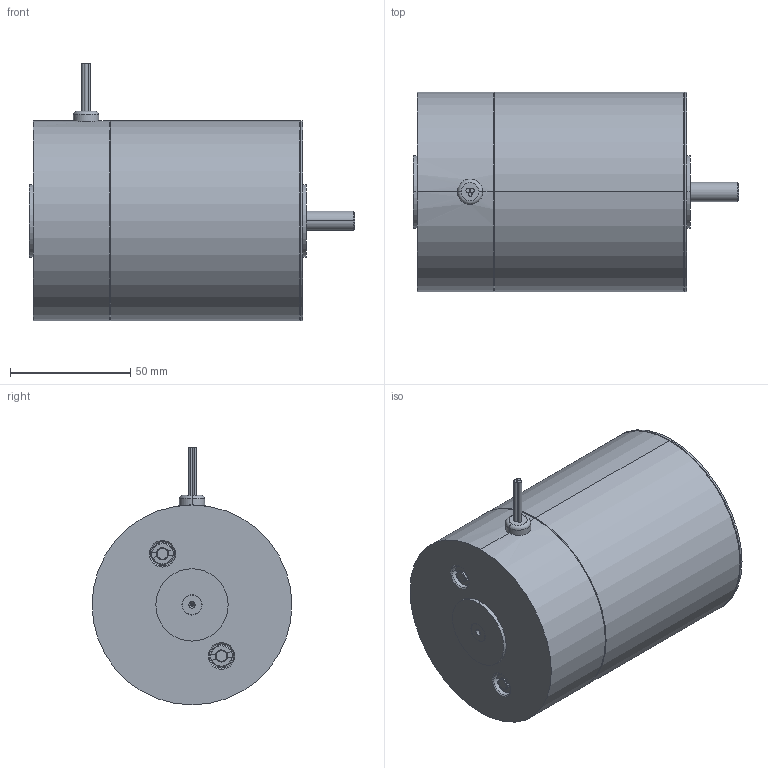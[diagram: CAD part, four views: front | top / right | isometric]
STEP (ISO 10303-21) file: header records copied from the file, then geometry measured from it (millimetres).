
FILE_DESCRIPTION (( 'STEP AP214' ), '1' );
FILE_NAME ('G865S.STEP', '2009-12-08T09:57:47', ( 'hirschmeier' ), ( '' ), 'SwSTEP 2.0', 'SolidWorks 2008', '' );
FILE_SCHEMA (( 'AUTOMOTIVE_DESIGN' ));
Length unit declared in the file: millimetre
Products named in the file (1): G865S
Bounding box: 135 x 83 x 107 mm (x, y, z)
Volume: 607756.2 mm3; surface area: 43155.9 mm2
Topology: 1 solids, 1 shells, 139 faces, 323 edges, 194 vertices
Faces by surface type: cone 52, cylinder 52, plane 33, torus 2
Entity records: 5140 total; most frequent: DIRECTION 749, CARTESIAN_POINT 745, ORIENTED_EDGE 622, EDGE_CURVE 311, AXIS2_PLACEMENT_3D 308, VERTEX_POINT 194, CIRCLE 168, EDGE_LOOP 159
